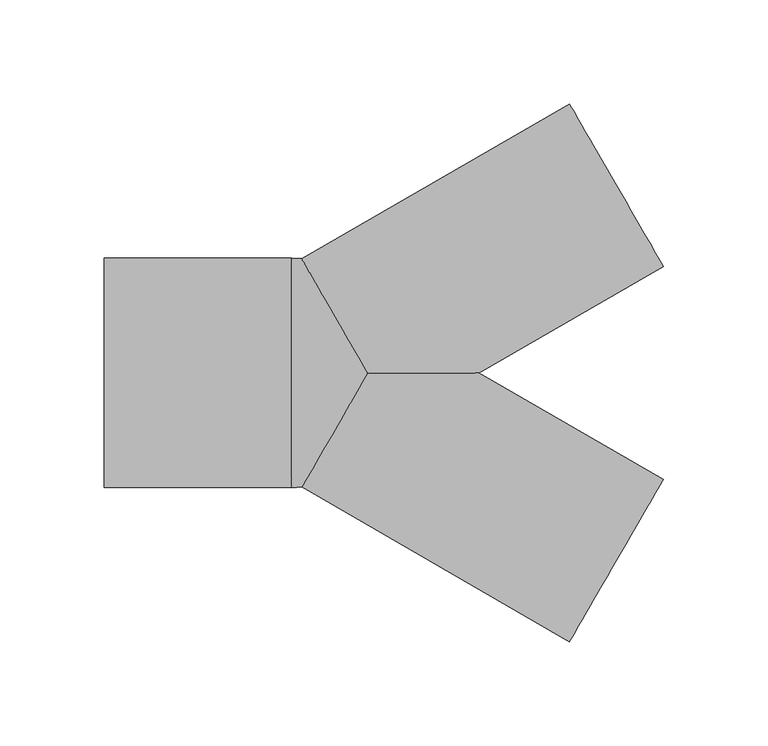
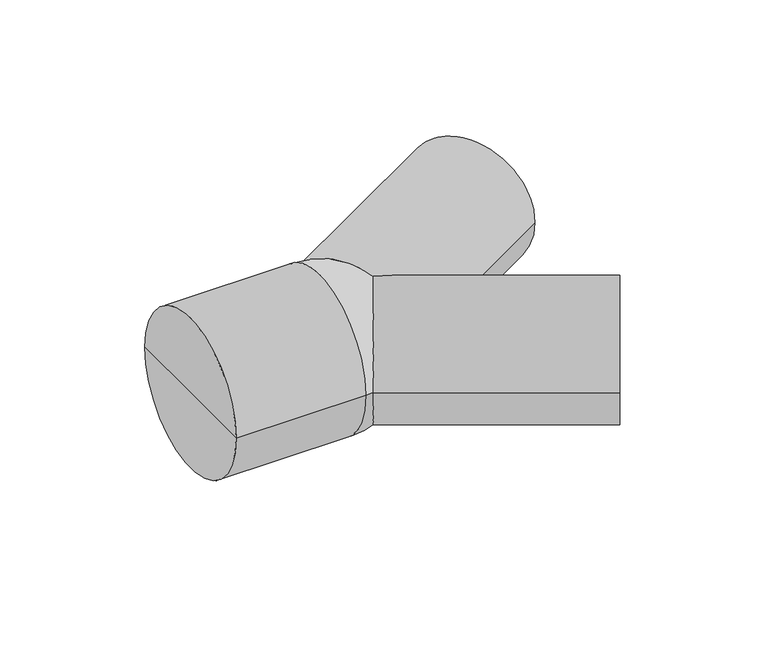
"""IFC4 building model written with IfcOpenShell, lengths in millimetres: pipe fitting geometry, NLRS_52_PIF_UN_PE broek T-stuk 2 x 30°_geb : DN40-100 Ø40-110."""

from ifc_helpers import new_model, si_unit, point, frame, origin, origin_with_axes, place, context, project, spatial, circle_curve, ellipse_curve, trimmed, source, transform, mapped, element, save
from ifc_brep_helpers import plane_surface, cylinder_surface, revolved_surface, advanced_brep


def pipe_fitting_cdec6f6e(model_context):
    return source(origin(), model_context, "Body", "AdvancedBrep", [
        advanced_brep(
        [(178.3845727, 51.0288568, 0.0), (133.3845727, 128.9711432, 0.0), (4.8861279, 54.7825315, 0.0), (36.5148372, 0.0, 41.1298756), (90.0, 0.0, 0.0), (36.5148372, 0.0, -41.1298756), (-90.0, 0.0, 0.0), (-90.0, 55.0, 0.0), (-90.0, -55.0, 0.0), (0.0, -55.0, 0.0), (0.0, 55.0, 0.0), (4.8861279, -54.7825315, 0.0), (133.3845727, -128.9711432, 0.0), (178.3845727, -51.0288568, 0.0)],
        [
            (0, 1, circle_curve(frame((155.8845727, 90.0, 0.0), z_axis=(0.8660254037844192, 0.5000000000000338, 0.0), x_axis=(-0.5000000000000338, 0.8660254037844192, 0.0)), 45.0)),
            (1, 0, circle_curve(frame((155.8845727, 90.0, 0.0), z_axis=(0.8660254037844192, 0.5000000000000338, 0.0), x_axis=(-0.5000000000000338, 0.8660254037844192, 0.0)), 45.0)),
            (1, 2),
            (2, 3, circle_curve(frame((27.3861279, 15.8113883, 0.0), z_axis=(0.8660254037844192, 0.5000000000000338, 0.0), x_axis=(-0.5000000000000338, 0.8660254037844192, 0.0)), 45.0)),
            (3, 4, ellipse_curve(frame((0.0, 0.0, 0.0), z_axis=(0.0, 1.0, 0.0), x_axis=(-1.0, 0.0, 0.0)), 90.0, 45.0)),
            (4, 0),
            (4, 5, ellipse_curve(frame((0.0, 0.0, 0.0), z_axis=(0.0, 1.0, 0.0), x_axis=(-1.0, 0.0, 0.0)), 90.0, 45.0)),
            (5, 2, circle_curve(frame((27.3861279, 15.8113883, 0.0), z_axis=(0.8660254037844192, 0.5000000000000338, 0.0), x_axis=(-0.5000000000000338, 0.8660254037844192, 0.0)), 45.0)),
            (6, 7),
            (7, 8, circle_curve(frame((-90.0, 0.0, 0.0), z_axis=(-1.0, 0.0, 0.0), x_axis=(0.0, 1.0, 0.0)), 55.0)),
            (8, 6),
            (8, 7, circle_curve(frame((-90.0, 0.0, 0.0), z_axis=(-1.0, 0.0, 0.0), x_axis=(0.0, 1.0, 0.0)), 55.0)),
            (9, 10, circle_curve(frame((0.0, 0.0, 0.0), z_axis=(1.0, 0.0, 0.0), x_axis=(0.0, 1.0, 0.0)), 55.0)),
            (10, 2, circle_curve(frame((0.0, 0.0, 0.0), z_axis=(0.0, 0.0, -1.0), x_axis=(1.0, 0.0, 0.0)), 55.0)),
            (5, 11, circle_curve(frame((27.3861279, -15.8113883, 0.0), z_axis=(-0.8660254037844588, 0.49999999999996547, 0.0), x_axis=(0.49999999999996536, 0.8660254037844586, 0.0)), 45.0)),
            (11, 9, circle_curve(frame((0.0, 0.0, 0.0), z_axis=(0.0, 0.0, -1.0), x_axis=(1.0, 0.0, 0.0)), 55.0)),
            (10, 9, circle_curve(frame((0.0, 0.0, 0.0), z_axis=(1.0, 0.0, 0.0), x_axis=(0.0, 1.0, 0.0)), 55.0)),
            (11, 3, circle_curve(frame((27.3861279, -15.8113883, 0.0), z_axis=(-0.8660254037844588, 0.49999999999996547, 0.0), x_axis=(0.49999999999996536, 0.8660254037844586, 0.0)), 45.0)),
            (7, 10),
            (9, 8),
            (12, 13, circle_curve(frame((155.8845727, -90.0, 0.0), z_axis=(0.8660254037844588, -0.49999999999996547, 0.0), x_axis=(0.49999999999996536, 0.8660254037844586, 0.0)), 45.0)),
            (13, 12, circle_curve(frame((155.8845727, -90.0, 0.0), z_axis=(0.8660254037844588, -0.49999999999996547, 0.0), x_axis=(0.49999999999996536, 0.8660254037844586, 0.0)), 45.0)),
            (13, 4),
            (11, 12),
        ],
        [
            plane_surface(frame((155.8845727, 90.0, 0.0), z_axis=(0.8660254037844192, 0.5000000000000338, 0.0), x_axis=(0.0, 0.0, 1.0))),
            cylinder_surface(frame((0.0, 0.0, 0.0), z_axis=(-0.8660254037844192, -0.5000000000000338, 0.0), x_axis=(-0.5000000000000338, 0.8660254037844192, 0.0)), 45.0),
            plane_surface(frame((-90.0, 0.0, 0.0), z_axis=(-1.0, 0.0, 0.0), x_axis=(0.0, 1.0, 0.0))),
            revolved_surface(trimmed(ellipse_curve(origin_with_axes(), 55.0, 55.0), [point((55.0, 0.0, 0.0))], [point((0.0, 55.0, 0.0))], True, "CARTESIAN"), (-65.0, 0.0, 0.0), (-1.0, 0.0, 0.0)),
            cylinder_surface(frame((-65.0, 0.0, 0.0), z_axis=(-1.0, 0.0, 0.0), x_axis=(0.0, 1.0, 0.0)), 55.0),
            plane_surface(frame((155.8845727, -90.0, 0.0), z_axis=(0.8660254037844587, -0.4999999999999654, 0.0), x_axis=(0.0, 0.0, 1.0))),
            cylinder_surface(frame((0.0, 0.0, 0.0), z_axis=(-0.8660254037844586, 0.49999999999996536, 0.0), x_axis=(0.49999999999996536, 0.8660254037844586, 0.0)), 45.0),
        ],
        [
            (0, [[1, 2]]),
            (1, [[-2, 3, 4, 5, 6]]),
            (1, [[-1, -6, 7, 8, -3]]),
            (2, [[9, 10, 11]]),
            (2, [[-9, -11, 12]]),
            (3, [[13, 14, -8, 15, 16]]),
            (3, [[17, -16, 18, -4, -14]]),
            (4, [[-10, 19, -13, 20]]),
            (4, [[-12, -20, -17, -19]]),
            (5, [[21, 22]]),
            (6, [[-22, 23, -5, -18, 24]]),
            (6, [[-21, -24, -15, -7, -23]]),
        ],
    ),
    ])


if __name__ == "__main__":
    model = new_model("IFC4")
    model_context = context("Model", 3, world=origin())
    ifc_project = project(units=[si_unit("LENGTHUNIT", "METRE", prefix="MILLI")], contexts=[model_context])
    site = spatial("IfcSite", under=ifc_project)
    building = spatial("IfcBuilding", under=site)
    placement = place(None, origin())
    pipe_fitting_shape = pipe_fitting_cdec6f6e(model_context)
    element("IfcPipeFitting", 1, ObjectType="NLRS_52_PIF_UN_PE broek T-stuk 2 x 30°_geb : DN40-100 Ø40-110", at=placement, inside=building, context=model_context, shape_type="MappedRepresentation", body=[
        mapped(pipe_fitting_shape, transform((0.0, 0.0, 0.0), x_axis=(1.0, 0.0, 0.0), y_axis=(0.0, 1.0, 0.0), z_axis=(0.0, 0.0, 1.0))),
    ])
    save(model, "model.ifc")
